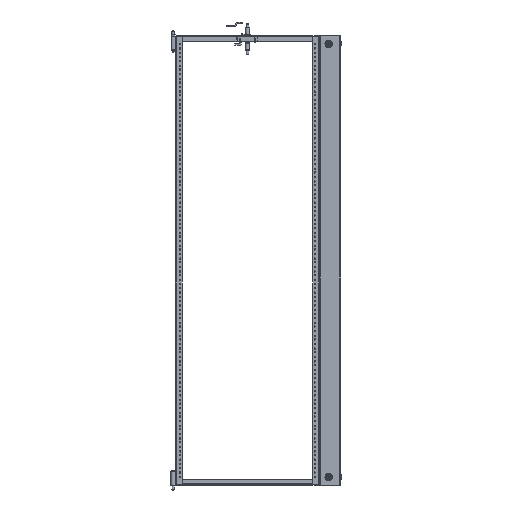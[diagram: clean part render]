
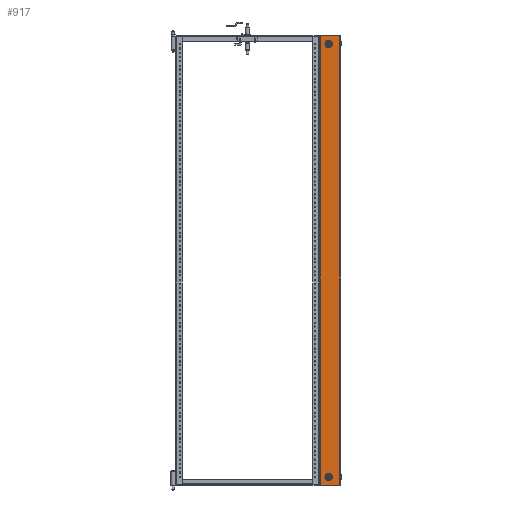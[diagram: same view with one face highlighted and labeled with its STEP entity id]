
A CAD part, front view. The second image highlights one B-rep face of the part: STEP entity #917.
In plain terms, the highlighted planar face has unit normal (0, -1, 0) as drawn and (0, 0, 1) by its records, which use the part's own axes.
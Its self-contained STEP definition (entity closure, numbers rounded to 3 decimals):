
#917 = ADVANCED_FACE( '', ( #2252, #2253, #2254 ), #2255, .T. );
#2252 = FACE_BOUND( '', #3654, .T. );
#2253 = FACE_BOUND( '', #3655, .T. );
#2254 = FACE_OUTER_BOUND( '', #3656, .T. );
#2255 = PLANE( '', #3657 );
#3654 = EDGE_LOOP( '', ( #6059, #6060, #6061, #6062, #6063, #6064, #6065, #6066 ) );
#3655 = EDGE_LOOP( '', ( #6067, #6068, #6069, #6070, #6071, #6072, #6073, #6074 ) );
#3656 = EDGE_LOOP( '', ( #6075, #6076, #6077, #6078 ) );
#3657 = AXIS2_PLACEMENT_3D( '', #6079, #6080, #6081 );
#6059 = ORIENTED_EDGE( '', *, *, #6996, .F. );
#6060 = ORIENTED_EDGE( '', *, *, #7001, .F. );
#6061 = ORIENTED_EDGE( '', *, *, #7002, .F. );
#6062 = ORIENTED_EDGE( '', *, *, #7003, .F. );
#6063 = ORIENTED_EDGE( '', *, *, #7004, .F. );
#6064 = ORIENTED_EDGE( '', *, *, #7005, .F. );
#6065 = ORIENTED_EDGE( '', *, *, #7006, .F. );
#6066 = ORIENTED_EDGE( '', *, *, #7007, .F. );
#6067 = ORIENTED_EDGE( '', *, *, #7008, .F. );
#6068 = ORIENTED_EDGE( '', *, *, #7009, .F. );
#6069 = ORIENTED_EDGE( '', *, *, #7010, .F. );
#6070 = ORIENTED_EDGE( '', *, *, #7011, .F. );
#6071 = ORIENTED_EDGE( '', *, *, #7012, .F. );
#6072 = ORIENTED_EDGE( '', *, *, #7013, .F. );
#6073 = ORIENTED_EDGE( '', *, *, #7014, .F. );
#6074 = ORIENTED_EDGE( '', *, *, #7015, .F. );
#6075 = ORIENTED_EDGE( '', *, *, #6988, .F. );
#6076 = ORIENTED_EDGE( '', *, *, #7016, .F. );
#6077 = ORIENTED_EDGE( '', *, *, #7017, .T. );
#6078 = ORIENTED_EDGE( '', *, *, #7018, .T. );
#6079 = CARTESIAN_POINT( '', ( -36.373, 777.875, 0. ) );
#6080 = DIRECTION( '', ( 0., 0., 1. ) );
#6081 = DIRECTION( '', ( 1., 0., 0. ) );
#6988 = EDGE_CURVE( '', #8340, #8342, #8343, .T. );
#6996 = EDGE_CURVE( '', #8356, #8358, #8359, .T. );
#7001 = EDGE_CURVE( '', #8365, #8356, #8367, .T. );
#7002 = EDGE_CURVE( '', #8368, #8365, #8369, .T. );
#7003 = EDGE_CURVE( '', #8370, #8368, #8371, .T. );
#7004 = EDGE_CURVE( '', #8372, #8370, #8373, .T. );
#7005 = EDGE_CURVE( '', #8374, #8372, #8375, .T. );
#7006 = EDGE_CURVE( '', #8376, #8374, #8377, .T. );
#7007 = EDGE_CURVE( '', #8358, #8376, #8378, .T. );
#7008 = EDGE_CURVE( '', #8379, #8380, #8381, .T. );
#7009 = EDGE_CURVE( '', #8382, #8379, #8383, .T. );
#7010 = EDGE_CURVE( '', #8384, #8382, #8385, .T. );
#7011 = EDGE_CURVE( '', #8386, #8384, #8387, .T. );
#7012 = EDGE_CURVE( '', #8388, #8386, #8389, .T. );
#7013 = EDGE_CURVE( '', #8390, #8388, #8391, .T. );
#7014 = EDGE_CURVE( '', #8392, #8390, #8393, .T. );
#7015 = EDGE_CURVE( '', #8380, #8392, #8394, .T. );
#7016 = EDGE_CURVE( '', #8395, #8340, #8396, .T. );
#7017 = EDGE_CURVE( '', #8395, #8397, #8398, .T. );
#7018 = EDGE_CURVE( '', #8397, #8342, #8399, .T. );
#8340 = VERTEX_POINT( '', #9956 );
#8342 = VERTEX_POINT( '', #9958 );
#8343 = LINE( '', #9959, #9960 );
#8356 = VERTEX_POINT( '', #9977 );
#8358 = VERTEX_POINT( '', #9980 );
#8359 = LINE( '', #9981, #9982 );
#8365 = VERTEX_POINT( '', #9991 );
#8367 = LINE( '', #9994, #9995 );
#8368 = VERTEX_POINT( '', #9996 );
#8369 = LINE( '', #9997, #9998 );
#8370 = VERTEX_POINT( '', #9999 );
#8371 = LINE( '', #10000, #10001 );
#8372 = VERTEX_POINT( '', #10002 );
#8373 = LINE( '', #10003, #10004 );
#8374 = VERTEX_POINT( '', #10005 );
#8375 = LINE( '', #10006, #10007 );
#8376 = VERTEX_POINT( '', #10008 );
#8377 = LINE( '', #10009, #10010 );
#8378 = LINE( '', #10011, #10012 );
#8379 = VERTEX_POINT( '', #10013 );
#8380 = VERTEX_POINT( '', #10014 );
#8381 = LINE( '', #10015, #10016 );
#8382 = VERTEX_POINT( '', #10017 );
#8383 = LINE( '', #10018, #10019 );
#8384 = VERTEX_POINT( '', #10020 );
#8385 = LINE( '', #10021, #10022 );
#8386 = VERTEX_POINT( '', #10023 );
#8387 = LINE( '', #10024, #10025 );
#8388 = VERTEX_POINT( '', #10026 );
#8389 = LINE( '', #10027, #10028 );
#8390 = VERTEX_POINT( '', #10029 );
#8391 = LINE( '', #10030, #10031 );
#8392 = VERTEX_POINT( '', #10032 );
#8393 = LINE( '', #10033, #10034 );
#8394 = LINE( '', #10035, #10036 );
#8395 = VERTEX_POINT( '', #10037 );
#8396 = LINE( '', #10038, #10039 );
#8397 = VERTEX_POINT( '', #10040 );
#8398 = LINE( '', #10041, #10042 );
#8399 = LINE( '', #10043, #10044 );
#9956 = CARTESIAN_POINT( '', ( 33.63, -777.875, 0. ) );
#9958 = CARTESIAN_POINT( '', ( -33.63, -777.875, 0. ) );
#9959 = CARTESIAN_POINT( '', ( -36.373, -777.875, 0. ) );
#9960 = VECTOR( '', #11787, 1000. );
#9977 = CARTESIAN_POINT( '', ( 14.948, -755.149, 0. ) );
#9980 = CARTESIAN_POINT( '', ( 14.948, -743.451, 0. ) );
#9981 = CARTESIAN_POINT( '', ( 14.948, 777.875, 0. ) );
#9982 = VECTOR( '', #11799, 1000. );
#9991 = CARTESIAN_POINT( '', ( 10.752, -759.346, 0. ) );
#9994 = CARTESIAN_POINT( '', ( 755.8, -14.298, 0. ) );
#9995 = VECTOR( '', #11804, 1000. );
#9996 = CARTESIAN_POINT( '', ( -0.947, -759.346, 0. ) );
#9997 = CARTESIAN_POINT( '', ( -36.373, -759.346, 0. ) );
#9998 = VECTOR( '', #11805, 1000. );
#9999 = CARTESIAN_POINT( '', ( -5.143, -755.149, 0. ) );
#10000 = CARTESIAN_POINT( '', ( -787.27, 26.977, 0. ) );
#10001 = VECTOR( '', #11806, 1000. );
#10002 = CARTESIAN_POINT( '', ( -5.143, -743.451, 0. ) );
#10003 = CARTESIAN_POINT( '', ( -5.143, 777.875, 0. ) );
#10004 = VECTOR( '', #11807, 1000. );
#10005 = CARTESIAN_POINT( '', ( -0.947, -739.254, 0. ) );
#10006 = CARTESIAN_POINT( '', ( 739.905, 1.598, 0. ) );
#10007 = VECTOR( '', #11808, 1000. );
#10008 = CARTESIAN_POINT( '', ( 10.752, -739.254, 0. ) );
#10009 = CARTESIAN_POINT( '', ( -36.373, -739.254, 0. ) );
#10010 = VECTOR( '', #11809, 1000. );
#10011 = CARTESIAN_POINT( '', ( -771.375, 42.873, 0. ) );
#10012 = VECTOR( '', #11810, 1000. );
#10013 = CARTESIAN_POINT( '', ( 14.948, 743.451, 0. ) );
#10014 = CARTESIAN_POINT( '', ( 14.948, 755.149, 0. ) );
#10015 = CARTESIAN_POINT( '', ( 14.948, 777.875, 0. ) );
#10016 = VECTOR( '', #11811, 1000. );
#10017 = CARTESIAN_POINT( '', ( 10.752, 739.254, 0. ) );
#10018 = CARTESIAN_POINT( '', ( 6.5, 735.002, 0. ) );
#10019 = VECTOR( '', #11812, 1000. );
#10020 = CARTESIAN_POINT( '', ( -0.947, 739.254, 0. ) );
#10021 = CARTESIAN_POINT( '', ( -36.373, 739.254, 0. ) );
#10022 = VECTOR( '', #11813, 1000. );
#10023 = CARTESIAN_POINT( '', ( -5.143, 743.451, 0. ) );
#10024 = CARTESIAN_POINT( '', ( -37.97, 776.277, 0. ) );
#10025 = VECTOR( '', #11814, 1000. );
#10026 = CARTESIAN_POINT( '', ( -5.143, 755.149, 0. ) );
#10027 = CARTESIAN_POINT( '', ( -5.143, 777.875, 0. ) );
#10028 = VECTOR( '', #11815, 1000. );
#10029 = CARTESIAN_POINT( '', ( -0.947, 759.346, 0. ) );
#10030 = CARTESIAN_POINT( '', ( -9.395, 750.898, 0. ) );
#10031 = VECTOR( '', #11816, 1000. );
#10032 = CARTESIAN_POINT( '', ( 10.752, 759.346, 0. ) );
#10033 = CARTESIAN_POINT( '', ( -36.373, 759.346, 0. ) );
#10034 = VECTOR( '', #11817, 1000. );
#10035 = CARTESIAN_POINT( '', ( -22.075, 792.173, 0. ) );
#10036 = VECTOR( '', #11818, 1000. );
#10037 = CARTESIAN_POINT( '', ( 33.63, 777.875, 0. ) );
#10038 = CARTESIAN_POINT( '', ( 33.63, 777.875, 0. ) );
#10039 = VECTOR( '', #11819, 1000. );
#10040 = CARTESIAN_POINT( '', ( -33.63, 777.875, 0. ) );
#10041 = CARTESIAN_POINT( '', ( -36.373, 777.875, 0. ) );
#10042 = VECTOR( '', #11820, 1000. );
#10043 = CARTESIAN_POINT( '', ( -33.63, 777.875, 0. ) );
#10044 = VECTOR( '', #11821, 1000. );
#11787 = DIRECTION( '', ( -1., 0., 0. ) );
#11799 = DIRECTION( '', ( 0., 1., 0. ) );
#11804 = DIRECTION( '', ( 0.707, 0.707, 0. ) );
#11805 = DIRECTION( '', ( 1., 0., 0. ) );
#11806 = DIRECTION( '', ( 0.707, -0.707, 0. ) );
#11807 = DIRECTION( '', ( 0., -1., 0. ) );
#11808 = DIRECTION( '', ( -0.707, -0.707, 0. ) );
#11809 = DIRECTION( '', ( -1., 0., 0. ) );
#11810 = DIRECTION( '', ( -0.707, 0.707, 0. ) );
#11811 = DIRECTION( '', ( 0., 1., 0. ) );
#11812 = DIRECTION( '', ( 0.707, 0.707, 0. ) );
#11813 = DIRECTION( '', ( 1., 0., 0. ) );
#11814 = DIRECTION( '', ( 0.707, -0.707, 0. ) );
#11815 = DIRECTION( '', ( 0., -1., 0. ) );
#11816 = DIRECTION( '', ( -0.707, -0.707, 0. ) );
#11817 = DIRECTION( '', ( -1., 0., 0. ) );
#11818 = DIRECTION( '', ( -0.707, 0.707, 0. ) );
#11819 = DIRECTION( '', ( 0., -1., 0. ) );
#11820 = DIRECTION( '', ( -1., 0., 0. ) );
#11821 = DIRECTION( '', ( 0., -1., 0. ) );
